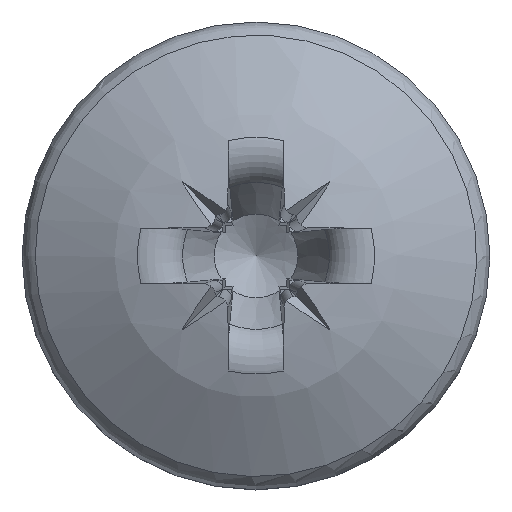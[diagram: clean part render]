
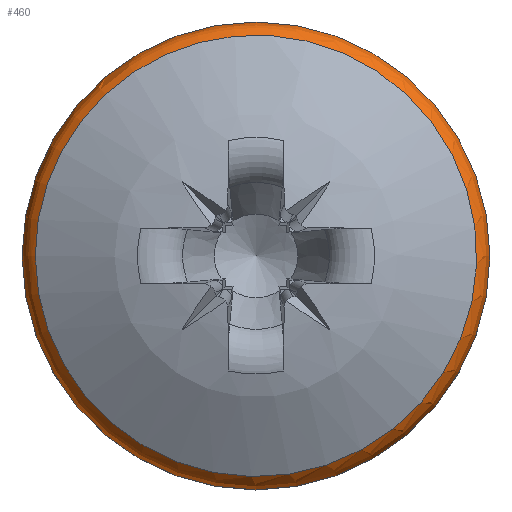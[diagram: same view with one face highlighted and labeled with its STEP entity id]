
A CAD part, top view. The second image highlights one B-rep face of the part: STEP entity #460.
In plain terms, the highlighted toroidal (fillet/blend) face has major radius 3.25 mm and minor radius 0.5 mm.
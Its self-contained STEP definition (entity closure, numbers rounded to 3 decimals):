
#366=TOROIDAL_SURFACE('',#2080,3.25,0.5);
#382=FACE_BOUND('',#714,.T.);
#383=FACE_BOUND('',#715,.T.);
#460=ADVANCED_FACE('',(#382,#383),#366,.T.);
#714=EDGE_LOOP('',(#1161));
#715=EDGE_LOOP('',(#1162));
#776=CIRCLE('',#1965,3.538);
#801=CIRCLE('',#1995,3.75);
#1161=ORIENTED_EDGE('',*,*,#1629,.F.);
#1162=ORIENTED_EDGE('',*,*,#1588,.F.);
#1415=VERTEX_POINT('',#3619);
#1454=VERTEX_POINT('',#3863);
#1588=EDGE_CURVE('',#1415,#1415,#776,.T.);
#1629=EDGE_CURVE('',#1454,#1454,#801,.T.);
#1965=AXIS2_PLACEMENT_3D('',#3618,#2098,#2099);
#1995=AXIS2_PLACEMENT_3D('',#3862,#2159,#2160);
#2080=AXIS2_PLACEMENT_3D('',#4282,#2389,#2390);
#2098=DIRECTION('',(0.,0.,1.));
#2099=DIRECTION('',(-1.,0.,0.));
#2159=DIRECTION('',(0.,0.,-1.));
#2160=DIRECTION('',(-1.,0.,0.));
#2389=DIRECTION('',(0.,0.,-1.));
#2390=DIRECTION('',(-1.,0.,0.));
#3618=CARTESIAN_POINT('',(0.,0.,2.076));
#3619=CARTESIAN_POINT('',(-3.538,0.,2.076));
#3862=CARTESIAN_POINT('',(0.,0.,1.668));
#3863=CARTESIAN_POINT('',(-3.75,0.,1.668));
#4282=CARTESIAN_POINT('',(0.,0.,1.668));
